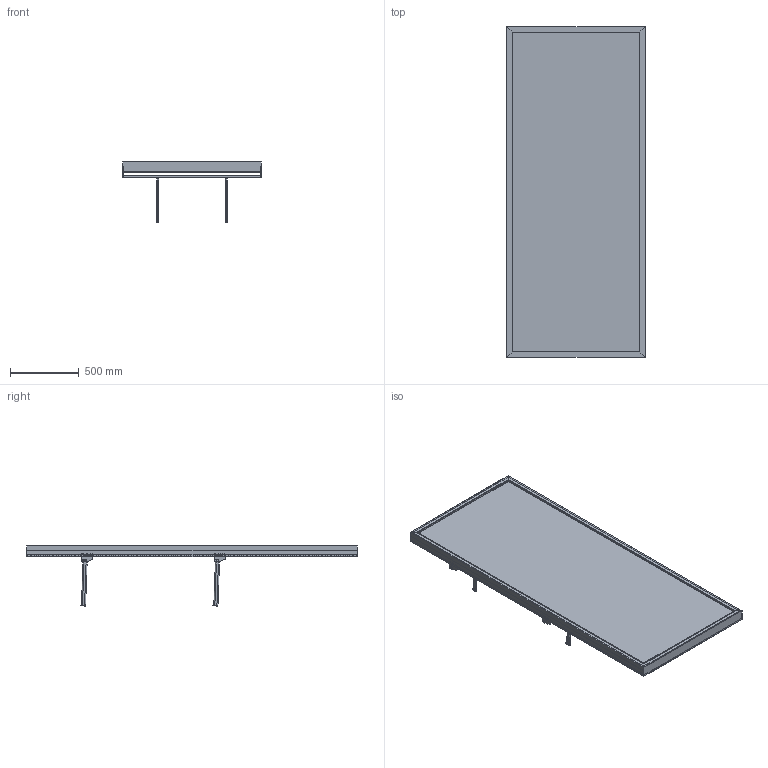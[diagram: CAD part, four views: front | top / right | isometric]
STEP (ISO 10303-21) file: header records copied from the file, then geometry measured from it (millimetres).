
FILE_DESCRIPTION (( 'STEP AP203' ), '1' );
FILE_NAME ('Illuminated Single Apparel Retail Display Wall (Config 1).STEP', '2026-03-30T14:22:15', ( '' ), ( '' ), 'SwSTEP 2.0', 'SolidWorks 2025', '' );
FILE_SCHEMA (( 'CONFIG_CONTROL_DESIGN' ));
Length unit declared in the file: millimetre
Products named in the file (11): 0001-31-GA10 - 1005W Slotted upbright; 0001-31-SA26 - 1005W Rear support Bar_Assem8; 0001-31-131.STEP; 0001-31-112.STEP; 0001-31-SA26 - 1005W Rear support Bar.STEP; 0001-31-SA27 - Forward Facing Arm.STEP; 0001-31-SA27 - Forward Facing Arm_Assem11; 0001-31-110.STEP; 0001-31-103.STEP; 0001-31-104.STEP; Illuminated Single Apparel Retail Display Wall (Config 1)
Assembly tree (15 placements, depth 4):
  Illuminated Single Apparel Retail Display Wall (Config 1)
    0001-31-GA10 - 1005W Slotted upbright
    0001-31-SA27 - Forward Facing Arm_Assem11  x4
      0001-31-SA27 - Forward Facing Arm.STEP
        0001-31-104.STEP
        0001-31-112.STEP
        0001-31-110.STEP
    0001-31-SA26 - 1005W Rear support Bar_Assem8  x2
      0001-31-SA26 - 1005W Rear support Bar.STEP
        0001-31-103.STEP  x2
        0001-31-131.STEP
Bounding box: 1005.74 x 2400 x 436.21 mm (x, y, z)
Volume: 8408507.3 mm3; surface area: 12455445.2 mm2
Topology: 24 solids, 24 shells, 936 faces, 3076 edges, 2040 vertices
Faces by surface type: plane 772, cylinder 164
Entity records: 27988 total; most frequent: CARTESIAN_POINT 5154, ORIENTED_EDGE 4946, DIRECTION 3869, EDGE_CURVE 2473, LINE 2315, VECTOR 2315, VERTEX_POINT 1646, EDGE_LOOP 867
